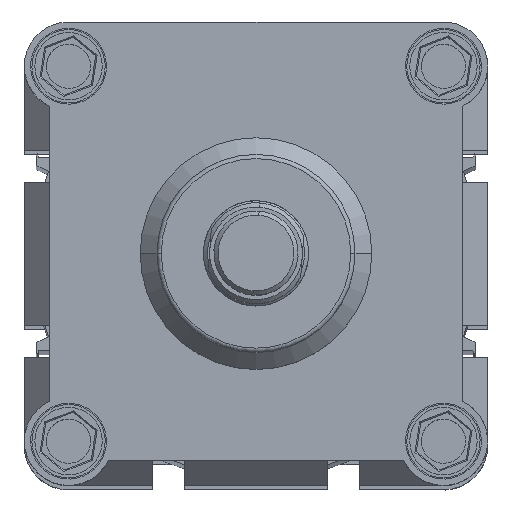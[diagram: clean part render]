
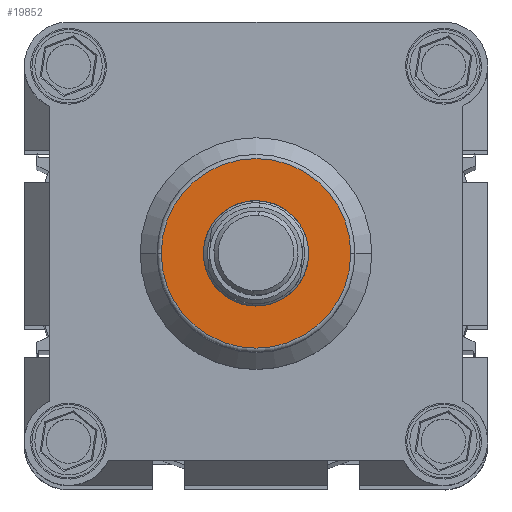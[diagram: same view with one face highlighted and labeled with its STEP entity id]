
A CAD part, top view. The second image highlights one B-rep face of the part: STEP entity #19852.
In plain terms, the highlighted planar face has unit normal (0, 0, 1).
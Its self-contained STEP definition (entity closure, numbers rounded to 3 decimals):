
#1058 = DIRECTION ( 'NONE',  ( 0., 0., 1. ) ) ;
#1335 = CARTESIAN_POINT ( 'NONE',  ( 42.5, 55., 80. ) ) ;
#1349 = CARTESIAN_POINT ( 'NONE',  ( 32.5, 55., 80. ) ) ;
#1457 = PLANE ( 'NONE',  #13308 ) ;
#1528 = AXIS2_PLACEMENT_3D ( 'NONE', #5067, #5145, #10663 ) ;
#1717 = VERTEX_POINT ( 'NONE', #19292 ) ;
#2804 = EDGE_CURVE ( 'NONE', #22765, #1717, #16231, .T. ) ;
#3016 = FACE_BOUND ( 'NONE', #20629, .T. ) ;
#3393 = VERTEX_POINT ( 'NONE', #1335 ) ;
#4544 = AXIS2_PLACEMENT_3D ( 'NONE', #19158, #1058, #4767 ) ;
#4667 = ORIENTED_EDGE ( 'NONE', *, *, #7289, .F. ) ;
#4767 = DIRECTION ( 'NONE',  ( 1., 0., 0. ) ) ;
#5067 = CARTESIAN_POINT ( 'NONE',  ( 55., 55., 80. ) ) ;
#5073 = DIRECTION ( 'NONE',  ( 0., 0., 1. ) ) ;
#5145 = DIRECTION ( 'NONE',  ( 0., 0., 1. ) ) ;
#5569 = ORIENTED_EDGE ( 'NONE', *, *, #16043, .F. ) ;
#7289 = EDGE_CURVE ( 'NONE', #3393, #19939, #15758, .T. ) ;
#8470 = ORIENTED_EDGE ( 'NONE', *, *, #17229, .T. ) ;
#8677 = DIRECTION ( 'NONE',  ( 1., 0., 0. ) ) ;
#10663 = DIRECTION ( 'NONE',  ( 1., 0., 0. ) ) ;
#10783 = EDGE_LOOP ( 'NONE', ( #8470, #12139 ) ) ;
#12139 = ORIENTED_EDGE ( 'NONE', *, *, #2804, .T. ) ;
#12949 = CARTESIAN_POINT ( 'NONE',  ( 55., 55., 80. ) ) ;
#12967 = CARTESIAN_POINT ( 'NONE',  ( 55., 55., 80. ) ) ;
#13179 = DIRECTION ( 'NONE',  ( 1., 0., 0. ) ) ;
#13267 = DIRECTION ( 'NONE',  ( 0., 0., 1. ) ) ;
#13308 = AXIS2_PLACEMENT_3D ( 'NONE', #19477, #5073, #8677 ) ;
#14870 = AXIS2_PLACEMENT_3D ( 'NONE', #12967, #19754, #18025 ) ;
#15758 = CIRCLE ( 'NONE', #14870, 12.5 ) ;
#16043 = EDGE_CURVE ( 'NONE', #19939, #3393, #20070, .T. ) ;
#16070 = CARTESIAN_POINT ( 'NONE',  ( 67.5, 55., 80. ) ) ;
#16231 = CIRCLE ( 'NONE', #20044, 22.5 ) ;
#17229 = EDGE_CURVE ( 'NONE', #1717, #22765, #18007, .T. ) ;
#18007 = CIRCLE ( 'NONE', #4544, 22.5 ) ;
#18025 = DIRECTION ( 'NONE',  ( 1., 0., 0. ) ) ;
#19158 = CARTESIAN_POINT ( 'NONE',  ( 55., 55., 80. ) ) ;
#19292 = CARTESIAN_POINT ( 'NONE',  ( 77.5, 55., 80. ) ) ;
#19477 = CARTESIAN_POINT ( 'NONE',  ( 55., 55., 80. ) ) ;
#19754 = DIRECTION ( 'NONE',  ( 0., 0., 1. ) ) ;
#19852 = ADVANCED_FACE ( 'NONE', ( #3016, #21469 ), #1457, .T. ) ;
#19939 = VERTEX_POINT ( 'NONE', #16070 ) ;
#20044 = AXIS2_PLACEMENT_3D ( 'NONE', #12949, #13267, #13179 ) ;
#20070 = CIRCLE ( 'NONE', #1528, 12.5 ) ;
#20629 = EDGE_LOOP ( 'NONE', ( #5569, #4667 ) ) ;
#21469 = FACE_OUTER_BOUND ( 'NONE', #10783, .T. ) ;
#22765 = VERTEX_POINT ( 'NONE', #1349 ) ;
